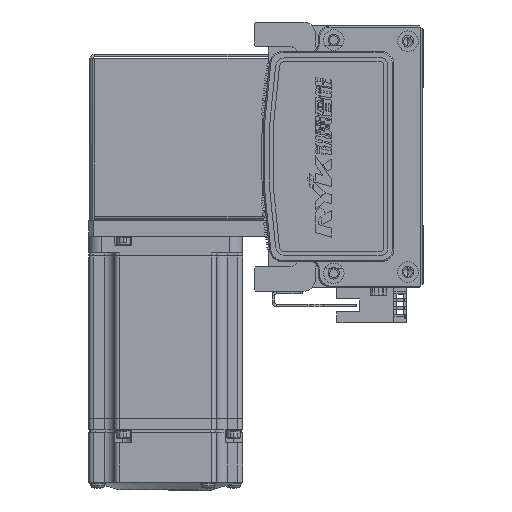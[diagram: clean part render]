
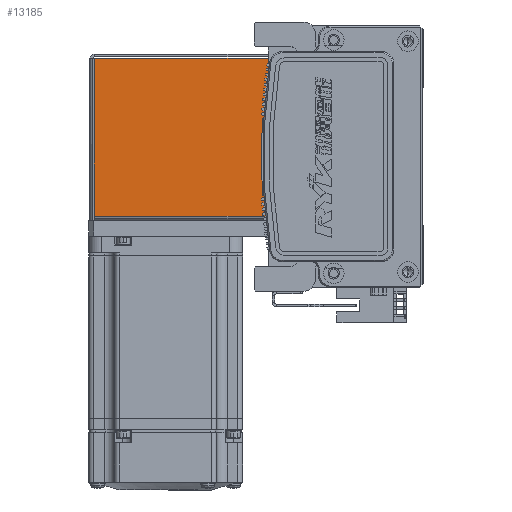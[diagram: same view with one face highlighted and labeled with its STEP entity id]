
A CAD part, left-side view. The second image highlights one B-rep face of the part: STEP entity #13185.
In plain terms, the highlighted planar face has unit normal (-1, 0, 0) as drawn and (0, 0, 1) by its records, which use the part's own axes.
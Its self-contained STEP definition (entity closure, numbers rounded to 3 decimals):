
#2138 = VECTOR ( 'NONE', #43752, 1000. ) ;
#4093 = VECTOR ( 'NONE', #28135, 1000. ) ;
#4490 = CARTESIAN_POINT ( 'NONE',  ( -30.793, 0.737, 35. ) ) ;
#8684 = ORIENTED_EDGE ( 'NONE', *, *, #23941, .T. ) ;
#9104 = DIRECTION ( 'NONE',  ( -1., 0., 0. ) ) ;
#9342 = LINE ( 'NONE', #17114, #4093 ) ;
#10011 = EDGE_CURVE ( 'NONE', #42120, #36760, #17004, .T. ) ;
#13185 = ADVANCED_FACE ( 'NONE', ( #39289 ), #58710, .F. ) ;
#16934 = LINE ( 'NONE', #38836, #2138 ) ;
#17004 = LINE ( 'NONE', #66543, #65098 ) ;
#17114 = CARTESIAN_POINT ( 'NONE',  ( 30.763, 0.737, 35. ) ) ;
#18195 = AXIS2_PLACEMENT_3D ( 'NONE', #20070, #25732, #9104 ) ;
#20070 = CARTESIAN_POINT ( 'NONE',  ( 0., 0., 35. ) ) ;
#23941 = EDGE_CURVE ( 'NONE', #36522, #36760, #16934, .T. ) ;
#25732 = DIRECTION ( 'NONE',  ( 0., 0., -1. ) ) ;
#26179 = CARTESIAN_POINT ( 'NONE',  ( 30.763, 68.5, 35. ) ) ;
#28135 = DIRECTION ( 'NONE',  ( 0., 1., 0. ) ) ;
#29426 = VERTEX_POINT ( 'NONE', #67840 ) ;
#32505 = ORIENTED_EDGE ( 'NONE', *, *, #43781, .T. ) ;
#35906 = DIRECTION ( 'NONE',  ( -1., 0., 0. ) ) ;
#36174 = VECTOR ( 'NONE', #35906, 1000. ) ;
#36522 = VERTEX_POINT ( 'NONE', #26179 ) ;
#36760 = VERTEX_POINT ( 'NONE', #44939 ) ;
#38836 = CARTESIAN_POINT ( 'NONE',  ( 0., 68.5, 35. ) ) ;
#39289 = FACE_OUTER_BOUND ( 'NONE', #61129, .T. ) ;
#42120 = VERTEX_POINT ( 'NONE', #4490 ) ;
#43752 = DIRECTION ( 'NONE',  ( -1., 0., 0. ) ) ;
#43781 = EDGE_CURVE ( 'NONE', #29426, #36522, #9342, .T. ) ;
#44939 = CARTESIAN_POINT ( 'NONE',  ( -30.793, 68.5, 35. ) ) ;
#47625 = CARTESIAN_POINT ( 'NONE',  ( -32.5, 0.737, 35. ) ) ;
#49532 = ORIENTED_EDGE ( 'NONE', *, *, #10011, .F. ) ;
#57016 = EDGE_CURVE ( 'NONE', #29426, #42120, #67688, .T. ) ;
#58710 = PLANE ( 'NONE',  #18195 ) ;
#61129 = EDGE_LOOP ( 'NONE', ( #32505, #8684, #49532, #67647 ) ) ;
#65098 = VECTOR ( 'NONE', #70361, 1000. ) ;
#66543 = CARTESIAN_POINT ( 'NONE',  ( -30.793, 0., 35. ) ) ;
#67647 = ORIENTED_EDGE ( 'NONE', *, *, #57016, .F. ) ;
#67688 = LINE ( 'NONE', #47625, #36174 ) ;
#67840 = CARTESIAN_POINT ( 'NONE',  ( 30.763, 0.737, 35. ) ) ;
#70361 = DIRECTION ( 'NONE',  ( 0., 1., 0. ) ) ;
